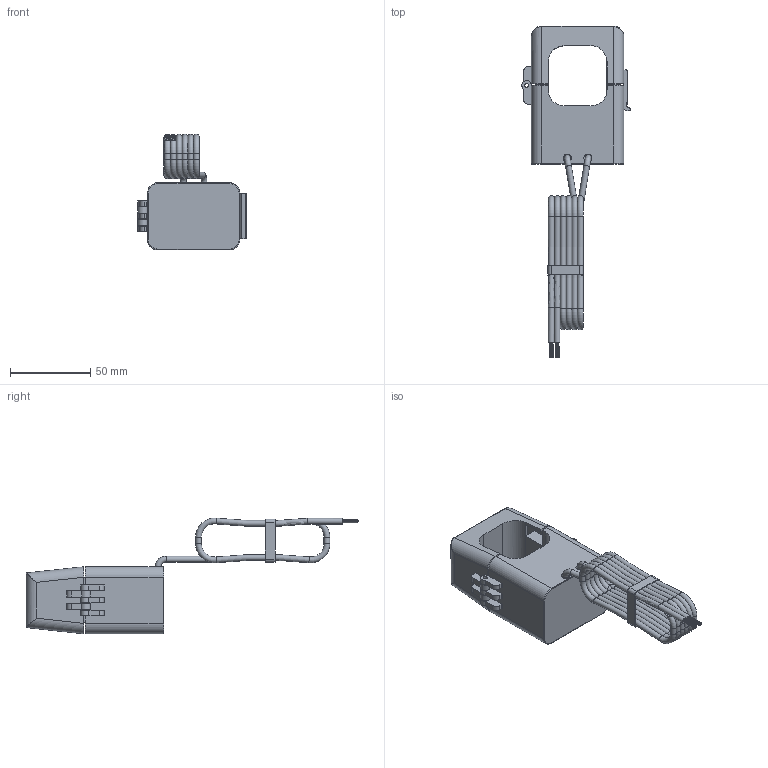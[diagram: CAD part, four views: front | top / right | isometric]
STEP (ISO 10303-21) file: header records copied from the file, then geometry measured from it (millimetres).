
FILE_DESCRIPTION(/* description */ (''),/* implementation_level */ '2;1');
FILE_NAME(/* name */ 'TA36P.step',/* time_stamp */ '2026-03-11T08:51:15+01:00',/* author */ (''),/* organization */ (''),/* preprocessor_version */ 'ST-DEVELOPER v20.1',/* originating_system */ 'Autodesk Translation Framework v14.24.0.0',/* authorisation */ '');
FILE_SCHEMA (('AUTOMOTIVE_DESIGN { 1 0 10303 214 3 1 1 }'));
Length unit declared in the file: millimetre
Products named in the file (2): 2026-03-11-08-47-58-540; 2026-03-11-08-47-59-904
Assembly tree (1 placements, depth 2):
  2026-03-11-08-47-58-540
    2026-03-11-08-47-59-904
Bounding box: 67.57 x 206.97 x 72.11 mm (x, y, z)
Volume: 130435.6 mm3; surface area: 52900.9 mm2
Topology: 39 solids, 41 shells, 433 faces, 1011 edges, 654 vertices
Faces by surface type: plane 249, cylinder 138, torus 42, bspline 4
Full cylindrical faces by diameter (mm): 0.4 x18, 2.4 x5, 2.6 x2, 3.6 x18, 5 x2
Entity records: 12767 total; most frequent: CARTESIAN_POINT 2453, DIRECTION 2261, ORIENTED_EDGE 2014, EDGE_CURVE 1007, AXIS2_PLACEMENT_3D 840, VERTEX_POINT 654, LINE 581, VECTOR 581
